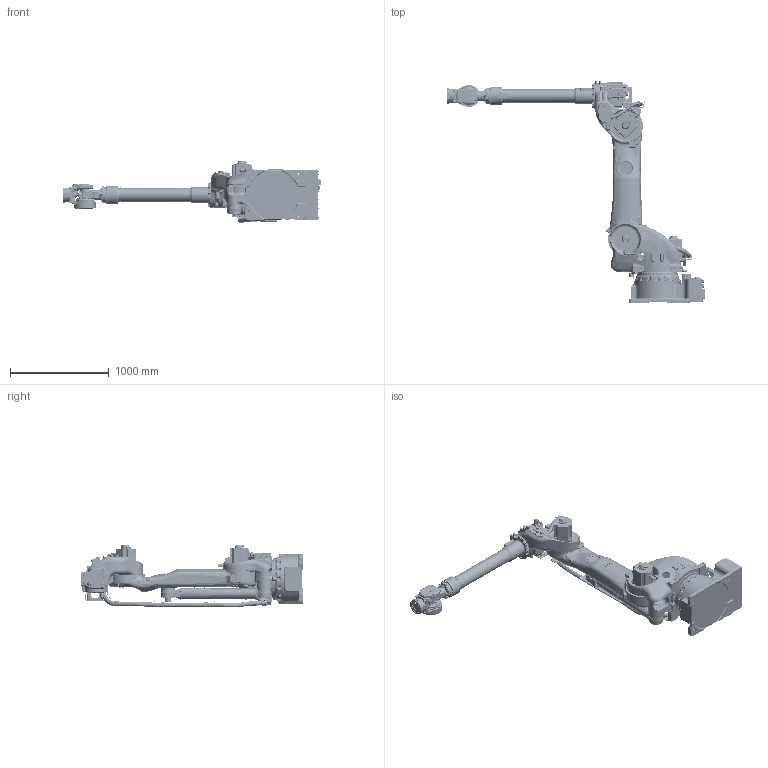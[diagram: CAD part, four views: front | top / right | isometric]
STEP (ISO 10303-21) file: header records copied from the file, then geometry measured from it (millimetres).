
FILE_DESCRIPTION((''),'2;1');
FILE_NAME('ASSY_VIEW_YR-1-06VX180-120-A00_ASM','2019-05-10T',('kataokah'),('YASKAWA ELECTRIC CORPORATION'),'PRO/ENGINEER BY PARAMETRIC TECHNOLOGY CORPORATION, 2015030','PRO/ENGINEER BY PARAMETRIC TECHNOLOGY CORPORATION, 2015030','');
FILE_SCHEMA(('CONFIG_CONTROL_DESIGN'));
Products named in the file (10): BASE_VIEW_YR-1-06VX180-120-A00; S_VIEW_YR-1-06VX180-120-A00; L_VIEW_YR-1-06VX180-120-A00; U_VIEW_YR-1-06VX180-120-A00; R_VIEW_YR-1-06VX180-120-A00; B_VIEW_YR-1-06VX180-120-A00; T_VIEW_YR-1-06VX180-120-A00; BAL_1_VIEW_YR-1-06VX180-120-A00; BAL_2_VIEW_YR-1-06VX180-120-A00; ASSY_VIEW_YR-1-06VX180-120-A00_ASM
Assembly tree (9 placements, depth 2):
  ASSY_VIEW_YR-1-06VX180-120-A00_ASM
    BASE_VIEW_YR-1-06VX180-120-A00
    S_VIEW_YR-1-06VX180-120-A00
    L_VIEW_YR-1-06VX180-120-A00
    U_VIEW_YR-1-06VX180-120-A00
    R_VIEW_YR-1-06VX180-120-A00
    B_VIEW_YR-1-06VX180-120-A00
    T_VIEW_YR-1-06VX180-120-A00
    BAL_1_VIEW_YR-1-06VX180-120-A00
    BAL_2_VIEW_YR-1-06VX180-120-A00
Bounding box: 2624.85 x 2253 x 636.78 mm (x, y, z)
Volume: 271965479.9 mm3; surface area: 9585583.8 mm2
Topology: 9 solids, 55 shells, 13475 faces, 33174 edges, 21037 vertices
Faces by surface type: plane 5904, cylinder 4562, bspline 1376, cone 712, torus 687, sphere 225, extrusion 8, revolution 1
Entity records: 546525 total; most frequent: CARTESIAN_POINT 233334, ORIENTED_EDGE 65902, DIRECTION 64018, EDGE_CURVE 33051, AXIS2_PLACEMENT_3D 23979, VERTEX_POINT 21037, VECTOR 16059, LINE 16051
